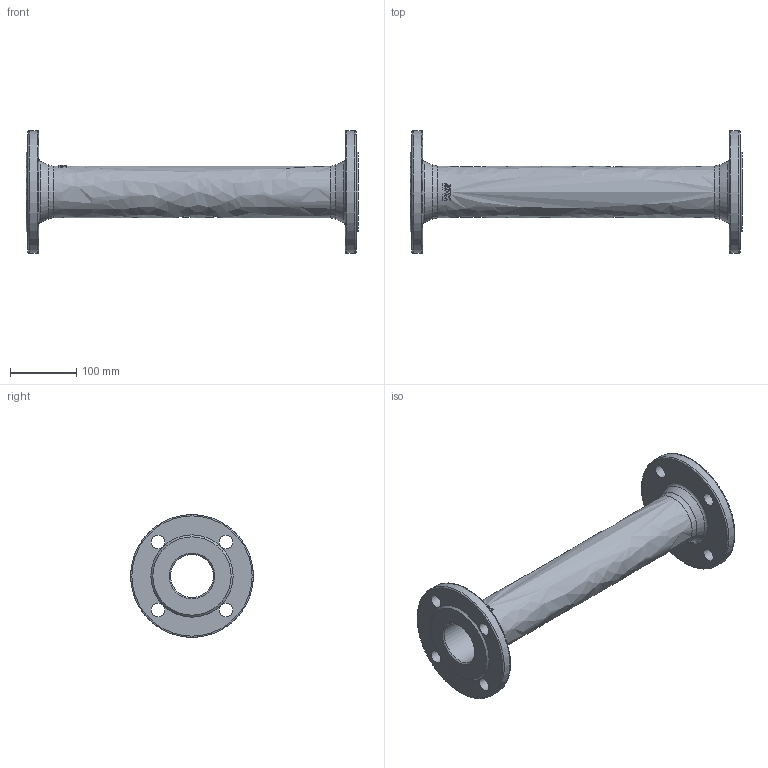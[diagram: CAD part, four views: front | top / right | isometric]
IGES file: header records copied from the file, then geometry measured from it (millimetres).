
Start section: SolidWorks IGES file using analytic representation for surfaces
Global section: file name: \\avksan2\techshare\PBM outline export from Enovia\O_712_4810_DN65_1X_REV01.igs; native system: SolidWorks 2019; preprocessor: SolidWorks 2019; author: pbm; date: 211201.111120; units: millimetre
Bounding box: 500 x 185 x 185 mm (x, y, z)
Surface area: 323906.1 mm2 (no closed solid volume)
Topology: 0 solids, 0 shells, 73 faces, 342 edges, 315 vertices
Faces by surface type: bspline 43, revolution 30
